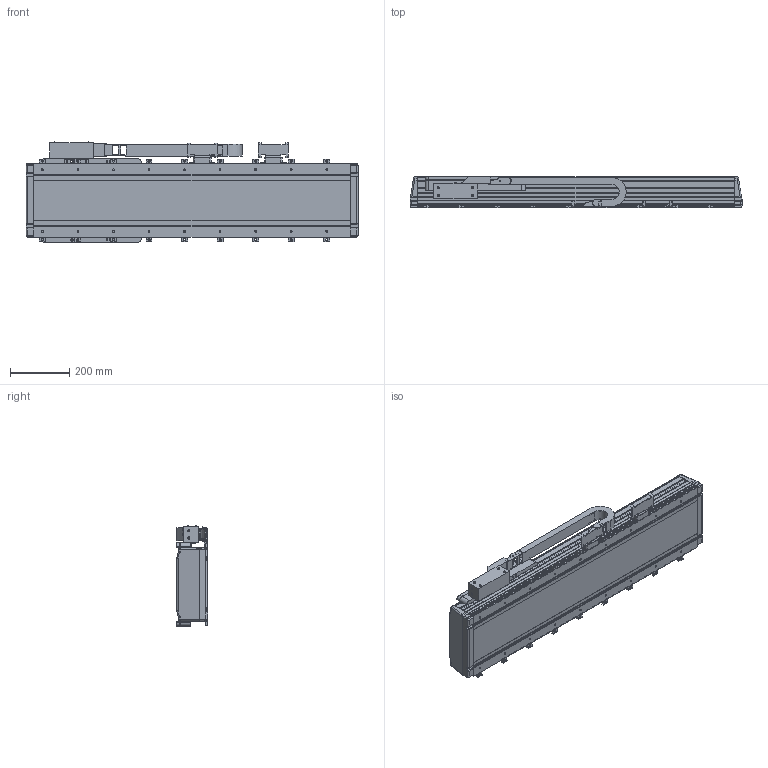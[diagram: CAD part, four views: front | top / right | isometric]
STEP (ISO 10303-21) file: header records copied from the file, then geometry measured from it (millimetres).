
FILE_DESCRIPTION((''),'2;1');
FILE_NAME('MPAS-A9068K-ALMS2C_ASM','2007-08-01T',('Sankarganesh'),(''),'PRO/ENGINEER BY PARAMETRIC TECHNOLOGY CORPORATION, 2006200','PRO/ENGINEER BY PARAMETRIC TECHNOLOGY CORPORATION, 2006200','');
FILE_SCHEMA(('CONFIG_CONTROL_DESIGN'));
Length unit declared in the file: millimetre
Products named in the file (11): PART-1_250_1121; PART-2_250; PART-3_250; PART-4_250_SEALED; PART-5_250; PART-6_250_1121; PART-7_250; PART-8_250_1121; PART-9_250; PART-10_250; MPAS-A9068K-ALMS2C_ASM
Assembly tree (44 placements, depth 2):
  MPAS-A9068K-ALMS2C_ASM
    PART-1_250_1121
    PART-2_250
    PART-3_250
    PART-4_250_SEALED
    PART-5_250
    PART-6_250_1121
    PART-7_250
    PART-8_250_1121
    PART-9_250  x18
    PART-10_250  x18
Bounding box: 1121 x 105.4 x 338.13 mm (x, y, z)
Volume: 14919001.7 mm3; surface area: 2663808.7 mm2
Topology: 44 solids, 46 shells, 1677 faces, 4404 edges, 2894 vertices
Faces by surface type: plane 1005, cylinder 638, sphere 12, bspline 12, torus 4, cone 4, extrusion 2
Entity records: 40622 total; most frequent: CARTESIAN_POINT 7918, DIRECTION 6842, ORIENTED_EDGE 6768, EDGE_CURVE 3384, VECTOR 2310, LINE 2308, AXIS2_PLACEMENT_3D 2266, VERTEX_POINT 2214
